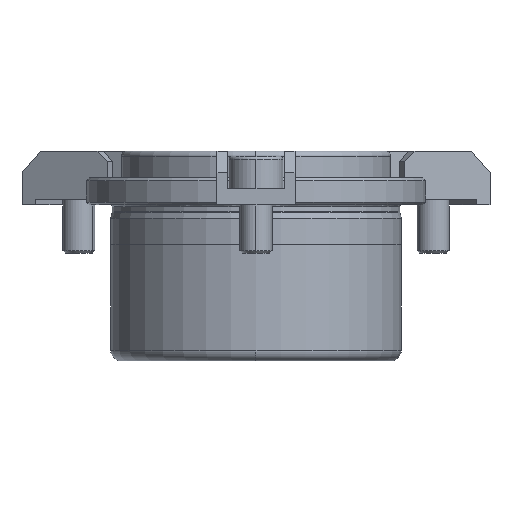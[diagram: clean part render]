
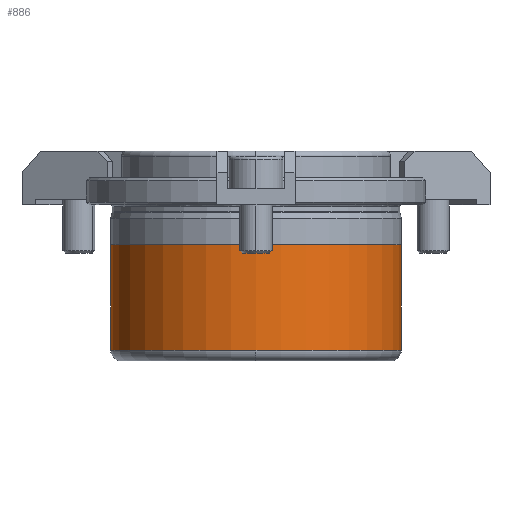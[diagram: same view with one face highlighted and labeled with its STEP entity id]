
A CAD part, front view. The second image highlights one B-rep face of the part: STEP entity #886.
In plain terms, the highlighted cylindrical face has radius 26.994 mm (diameter 53.988 mm), a partial arc.
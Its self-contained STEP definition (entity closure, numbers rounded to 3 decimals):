
#836=CARTESIAN_POINT('',(0.0,0.,-17.2));
#837=DIRECTION('',(0.0,0.,1.0));
#838=DIRECTION('',(1.0,0.0,0.0));
#839=AXIS2_PLACEMENT_3D('',#836,#837,#838);
#840=CYLINDRICAL_SURFACE('',#839,26.994);
#841=CARTESIAN_POINT('',(26.994,0.,-7.4));
#842=VERTEX_POINT('',#841);
#843=CARTESIAN_POINT('',(26.994,0.,-27.0));
#844=VERTEX_POINT('',#843);
#845=CARTESIAN_POINT('',(26.994,0.,-7.4));
#846=DIRECTION('',(0.0,0.0,-1.0));
#847=VECTOR('',#846,19.6);
#848=LINE('',#845,#847);
#849=EDGE_CURVE('',#842,#844,#848,.T.);
#850=ORIENTED_EDGE('',*,*,#849,.F.);
#851=CARTESIAN_POINT('',(-26.994,0.,-7.4));
#852=VERTEX_POINT('',#851);
#853=CARTESIAN_POINT('',(0.0,0.,-7.4));
#854=DIRECTION('',(0.0,0.0,1.0));
#855=DIRECTION('',(1.0,0.0,0.0));
#856=AXIS2_PLACEMENT_3D('',#853,#854,#855);
#857=CIRCLE('',#856,26.994);
#858=EDGE_CURVE('',#852,#842,#857,.T.);
#859=ORIENTED_EDGE('',*,*,#858,.F.);
#860=CARTESIAN_POINT('',(-26.994,0.,-27.));
#861=VERTEX_POINT('',#860);
#862=CARTESIAN_POINT('',(-26.994,0.,-7.4));
#863=DIRECTION('',(0.0,0.0,-1.0));
#864=VECTOR('',#863,19.6);
#865=LINE('',#862,#864);
#866=EDGE_CURVE('',#852,#861,#865,.T.);
#867=ORIENTED_EDGE('',*,*,#866,.T.);
#868=CARTESIAN_POINT('',(0.0,-26.994,-27.));
#869=VERTEX_POINT('',#868);
#870=CARTESIAN_POINT('',(0.0,0.,-27.0));
#871=DIRECTION('',(0.0,0.0,1.0));
#872=DIRECTION('',(1.0,0.0,0.0));
#873=AXIS2_PLACEMENT_3D('',#870,#871,#872);
#874=CIRCLE('',#873,26.994);
#875=EDGE_CURVE('',#861,#869,#874,.T.);
#876=ORIENTED_EDGE('',*,*,#875,.T.);
#877=CARTESIAN_POINT('',(0.0,0.,-27.0));
#878=DIRECTION('',(0.0,0.0,1.0));
#879=DIRECTION('',(1.0,0.0,0.0));
#880=AXIS2_PLACEMENT_3D('',#877,#878,#879);
#881=CIRCLE('',#880,26.994);
#882=EDGE_CURVE('',#869,#844,#881,.T.);
#883=ORIENTED_EDGE('',*,*,#882,.T.);
#884=EDGE_LOOP('',(#850,#859,#867,#876,#883));
#885=FACE_OUTER_BOUND('',#884,.T.);
#886=ADVANCED_FACE('',(#885),#840,.T.);
